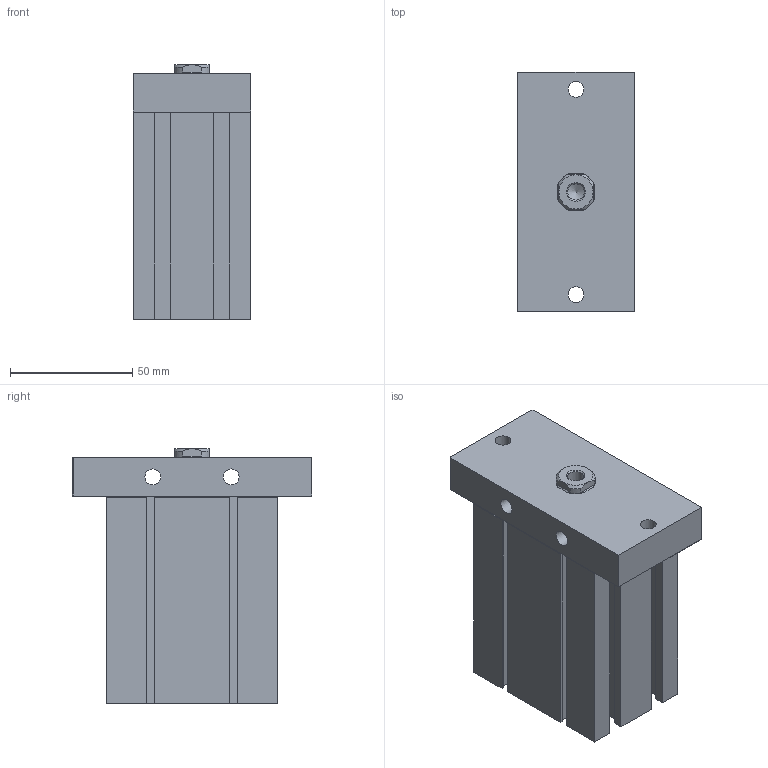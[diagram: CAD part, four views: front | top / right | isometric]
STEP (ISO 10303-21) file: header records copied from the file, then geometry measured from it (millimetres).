
FILE_DESCRIPTION((''),'2;1');
FILE_NAME('J:\3D電子目錄\氣缸\ND\ND\ND40-F\ND40x50-F.stp','2008-03-12T16:40:04',('66-2f-008'),(''),'Autodesk Inventor 11','Autodesk Inventor 11','');
FILE_SCHEMA(('AUTOMOTIVE_DESIGN { 1 0 10303 214 1 1 1 1 }'));
Length unit declared in the file: millimetre
Products named in the file (1): ND40-F
Bounding box: 48 x 98 x 104 mm (x, y, z)
Volume: 322326.3 mm3; surface area: 50326.8 mm2
Topology: 2 solids, 2 shells, 139 faces, 351 edges, 225 vertices
Faces by surface type: plane 99, bspline 16, cone 12, cylinder 11, torus 1
Full cylindrical faces by diameter (mm): 2.2 x2, 6.5 x2, 29 x1, 42 x1, 44.5 x1
Entity records: 4102 total; most frequent: CARTESIAN_POINT 908, ORIENTED_EDGE 634, DIRECTION 618, EDGE_CURVE 317, VECTOR 248, LINE 248, VERTEX_POINT 219, AXIS2_PLACEMENT_3D 185
